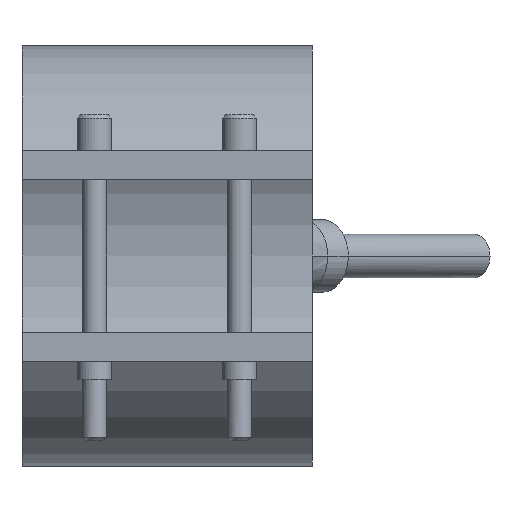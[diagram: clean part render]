
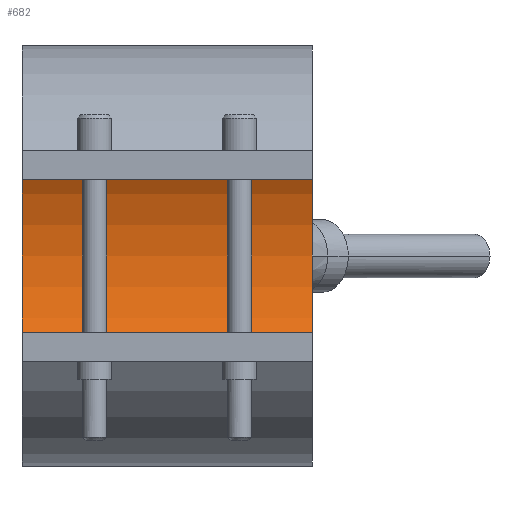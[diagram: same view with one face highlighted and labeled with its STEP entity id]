
A CAD part, front view. The second image highlights one B-rep face of the part: STEP entity #682.
In plain terms, the highlighted cylindrical face has radius 25 mm (diameter 50 mm), a partial arc.
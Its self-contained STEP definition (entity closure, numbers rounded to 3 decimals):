
#352=CARTESIAN_POINT('Vertex',(20.,0.,25.)) ;
#357=CARTESIAN_POINT('Axis2P3D Location',(20.,0.,0.)) ;
#361=CARTESIAN_POINT('Vertex',(20.,0.,-25.)) ;
#468=CARTESIAN_POINT('Vertex',(-20.,0.,-25.)) ;
#471=CARTESIAN_POINT('Axis2P3D Location',(-20.,0.,0.)) ;
#475=CARTESIAN_POINT('Vertex',(-20.,0.,25.)) ;
#654=CARTESIAN_POINT('Line Origine',(20.,0.,25.)) ;
#666=CARTESIAN_POINT('Axis2P3D Location',(20.,0.,0.)) ;
#671=CARTESIAN_POINT('Line Origine',(20.,0.,-25.)) ;
#358=DIRECTION('Axis2P3D Direction',(1.,0.,0.)) ;
#472=DIRECTION('Axis2P3D Direction',(1.,0.,0.)) ;
#655=DIRECTION('Vector Direction',(1.,0.,0.)) ;
#667=DIRECTION('Axis2P3D Direction',(1.,0.,-0.)) ;
#668=DIRECTION('Axis2P3D XDirection',(0.,0.,-1.)) ;
#672=DIRECTION('Vector Direction',(1.,0.,0.)) ;
#359=AXIS2_PLACEMENT_3D('Circle Axis2P3D',#357,#358,$) ;
#473=AXIS2_PLACEMENT_3D('Circle Axis2P3D',#471,#472,$) ;
#669=AXIS2_PLACEMENT_3D('Cylinder Axis2P3D',#666,#667,#668) ;
#677=ORIENTED_EDGE('',*,*,#363,.T.) ;
#678=ORIENTED_EDGE('',*,*,#658,.T.) ;
#679=ORIENTED_EDGE('',*,*,#477,.F.) ;
#680=ORIENTED_EDGE('',*,*,#675,.T.) ;
#656=VECTOR('Line Direction',#655,1.) ;
#673=VECTOR('Line Direction',#672,1.) ;
#682=ADVANCED_FACE('29050040',(#681),#670,.F.) ;
#360=CIRCLE('generated circle',#359,25.) ;
#474=CIRCLE('generated circle',#473,25.) ;
#670=CYLINDRICAL_SURFACE('generated cylinder',#669,25.) ;
#363=EDGE_CURVE('',#362,#353,#360,.T.) ;
#477=EDGE_CURVE('',#469,#476,#474,.T.) ;
#658=EDGE_CURVE('',#353,#476,#657,.F.) ;
#675=EDGE_CURVE('',#469,#362,#674,.T.) ;
#676=EDGE_LOOP('',(#677,#678,#679,#680)) ;
#681=FACE_OUTER_BOUND('',#676,.T.) ;
#657=LINE('Line',#654,#656) ;
#674=LINE('Line',#671,#673) ;
#353=VERTEX_POINT('',#352) ;
#362=VERTEX_POINT('',#361) ;
#469=VERTEX_POINT('',#468) ;
#476=VERTEX_POINT('',#475) ;
